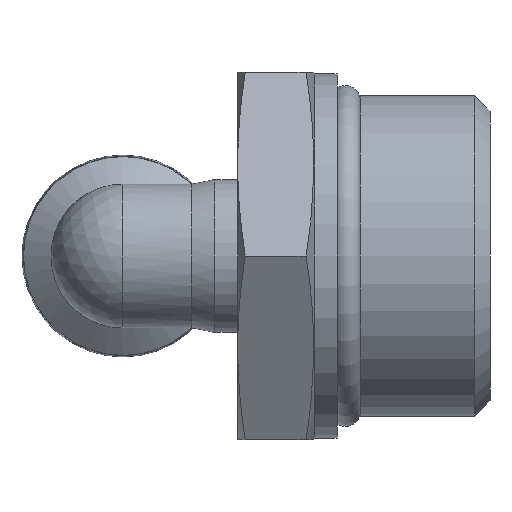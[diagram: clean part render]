
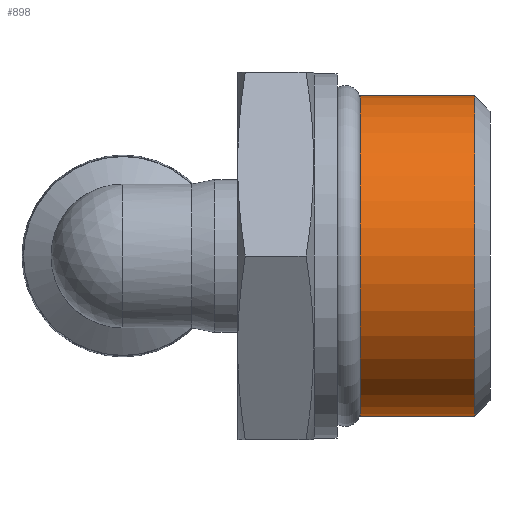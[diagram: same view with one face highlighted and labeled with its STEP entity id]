
A CAD part, left-side view. The second image highlights one B-rep face of the part: STEP entity #898.
In plain terms, the highlighted cylindrical face has radius 10.477 mm (diameter 20.955 mm), a full revolution.
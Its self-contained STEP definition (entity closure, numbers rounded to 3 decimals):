
#92=CYLINDRICAL_SURFACE('',#988,10.478);
#112=FACE_OUTER_BOUND('',#173,.T.);
#173=EDGE_LOOP('',(#627,#628,#629,#630,#631,#632));
#235=LINE('',#1540,#267);
#267=VECTOR('',#1140,10.478);
#304=CIRCLE('',#983,10.478);
#305=CIRCLE('',#984,10.478);
#308=CIRCLE('',#989,10.478);
#309=CIRCLE('',#990,10.478);
#380=VERTEX_POINT('',#1528);
#381=VERTEX_POINT('',#1530);
#384=VERTEX_POINT('',#1539);
#385=VERTEX_POINT('',#1541);
#477=EDGE_CURVE('',#380,#381,#304,.T.);
#478=EDGE_CURVE('',#381,#380,#305,.T.);
#481=EDGE_CURVE('',#381,#384,#235,.T.);
#482=EDGE_CURVE('',#384,#385,#308,.T.);
#483=EDGE_CURVE('',#385,#384,#309,.T.);
#627=ORIENTED_EDGE('',*,*,#477,.F.);
#628=ORIENTED_EDGE('',*,*,#478,.F.);
#629=ORIENTED_EDGE('',*,*,#481,.T.);
#630=ORIENTED_EDGE('',*,*,#482,.T.);
#631=ORIENTED_EDGE('',*,*,#483,.T.);
#632=ORIENTED_EDGE('',*,*,#481,.F.);
#898=ADVANCED_FACE('',(#112),#92,.T.);
#983=AXIS2_PLACEMENT_3D('',#1531,#1128,#1129);
#984=AXIS2_PLACEMENT_3D('',#1532,#1130,#1131);
#988=AXIS2_PLACEMENT_3D('',#1538,#1138,#1139);
#989=AXIS2_PLACEMENT_3D('',#1542,#1141,#1142);
#990=AXIS2_PLACEMENT_3D('',#1543,#1143,#1144);
#1128=DIRECTION('center_axis',(0.,-1.,0.));
#1129=DIRECTION('ref_axis',(-1.,0.,0.));
#1130=DIRECTION('center_axis',(0.,-1.,0.));
#1131=DIRECTION('ref_axis',(-1.,0.,0.));
#1138=DIRECTION('center_axis',(0.,-1.,0.));
#1139=DIRECTION('ref_axis',(1.,0.,0.));
#1140=DIRECTION('',(0.,1.,0.));
#1141=DIRECTION('center_axis',(0.,-1.,0.));
#1142=DIRECTION('ref_axis',(1.,0.,0.));
#1143=DIRECTION('center_axis',(0.,-1.,0.));
#1144=DIRECTION('ref_axis',(1.,0.,0.));
#1528=CARTESIAN_POINT('',(10.478,-23.,0.));
#1530=CARTESIAN_POINT('',(-10.478,-23.,0.));
#1531=CARTESIAN_POINT('Origin',(0.,-23.,0.));
#1532=CARTESIAN_POINT('Origin',(0.,-23.,0.));
#1538=CARTESIAN_POINT('Origin',(0.,-19.75,0.));
#1539=CARTESIAN_POINT('',(-10.478,-15.5,0.));
#1540=CARTESIAN_POINT('',(-10.478,-19.75,0.));
#1541=CARTESIAN_POINT('',(10.478,-15.5,0.));
#1542=CARTESIAN_POINT('Origin',(0.,-15.5,0.));
#1543=CARTESIAN_POINT('Origin',(0.,-15.5,0.));
